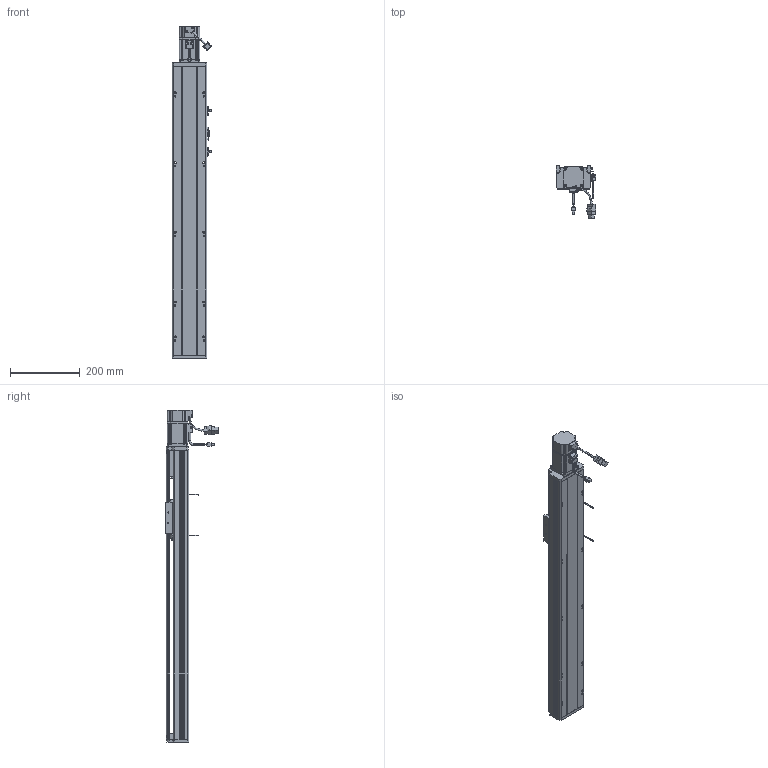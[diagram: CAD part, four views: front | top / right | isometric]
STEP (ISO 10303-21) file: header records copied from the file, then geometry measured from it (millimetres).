
FILE_DESCRIPTION (( 'STEP AP214' ), '1' );
FILE_NAME ('CTH10-600.STEP', '2019-11-18T08:04:59', ( '微软用户' ), ( '微软中国' ), 'SwSTEP 2.0', 'SolidWorks 2017', '' );
FILE_SCHEMA (( 'AUTOMOTIVE_DESIGN' ));
Length unit declared in the file: millimetre
Products named in the file (34): CTH10-600; CTH10-底座_默认<按加工>; CTH10-移动座_默认<按加工>; CTH10-蹟簽蟀諉啣; CTH10-盓傅釱; CTH10-傷啣; CTH10-侜督萇儂啣; SFH1605-288; SFH1605; CTH10-盖板_默认<按加工>; 怢湛200W侜督萇儂ECMA-CX0602ES; CTH10-粣創釱; BEARING_BaseModel20190604090351; 7001-DF; 粣創揤啣; COL12B-粣遠; 坶踡蹟譫; M4-L8囀鞠褒蹟佪; M3-L10囀鞠褒蹟佪; CTH10粣創釱蚾饜极; M5-L20囀鞠褒蹟佪; 遣喳蝶15x12x8; 6000Z粣創; M4-L6半圆头内六角螺丝; EE-SX672; M3-L8囀鞠褒蹟佪; 100耀郪-覜茼んえ; MGN12C; MGN12C-R1; MGN12C-2R420-Z0CHC; 噩砃M3-L10囀鞠褒蹟佪; 噩砃MGN12C; 噩砃MGN12C-R1; 噩砃MGN12C-2R420-Z0CHC
Assembly tree (100 placements, depth 4):
  CTH10-600
    CTH10-底座_默认<按加工>
    CTH10-移动座_默认<按加工>
    CTH10-蹟簽蟀諉啣
    CTH10-盓傅釱
    CTH10-傷啣
    CTH10-侜督萇儂啣
    SFH1605-288
    SFH1605
    CTH10-盖板_默认<按加工>
    怢湛200W侜督萇儂ECMA-CX0602ES
    CTH10粣創釱蚾饜极
      CTH10-粣創釱
      7001-DF
        BEARING_BaseModel20190604090351  x2
      粣創揤啣
      COL12B-粣遠  x2
      坶踡蹟譫
      M4-L8囀鞠褒蹟佪  x4
      M3-L10囀鞠褒蹟佪  x6
    M3-L10囀鞠褒蹟佪  x19
    M5-L20囀鞠褒蹟佪  x4
    遣喳蝶15x12x8  x3
    6000Z粣創
    M4-L6半圆头内六角螺丝  x4
    M4-L8囀鞠褒蹟佪  x8
    EE-SX672  x2
    M3-L8囀鞠褒蹟佪  x4
    100耀郪-覜茼んえ
    MGN12C-2R420-Z0CHC
      MGN12C
      MGN12C-R1  x2
      M3-L10囀鞠褒蹟佪  x8
    噩砃M3-L10囀鞠褒蹟佪
    噩砃MGN12C-2R420-Z0CHC
      噩砃MGN12C
      噩砃MGN12C-R1  x2
      噩砃M3-L10囀鞠褒蹟佪  x8
Bounding box: 114.24 x 151.37 x 952 mm (x, y, z)
Volume: 2486731.4 mm3; surface area: 915191.4 mm2
Topology: 96 solids, 105 shells, 4593 faces, 11582 edges, 7222 vertices
Faces by surface type: plane 2322, cylinder 1384, cone 601, bspline 241, torus 33, sphere 12
Entity records: 96326 total; most frequent: CARTESIAN_POINT 29326, ORIENTED_EDGE 13668, DIRECTION 13057, EDGE_CURVE 6834, AXIS2_PLACEMENT_3D 4642, VERTEX_POINT 4436, VECTOR 3773, LINE 3773
